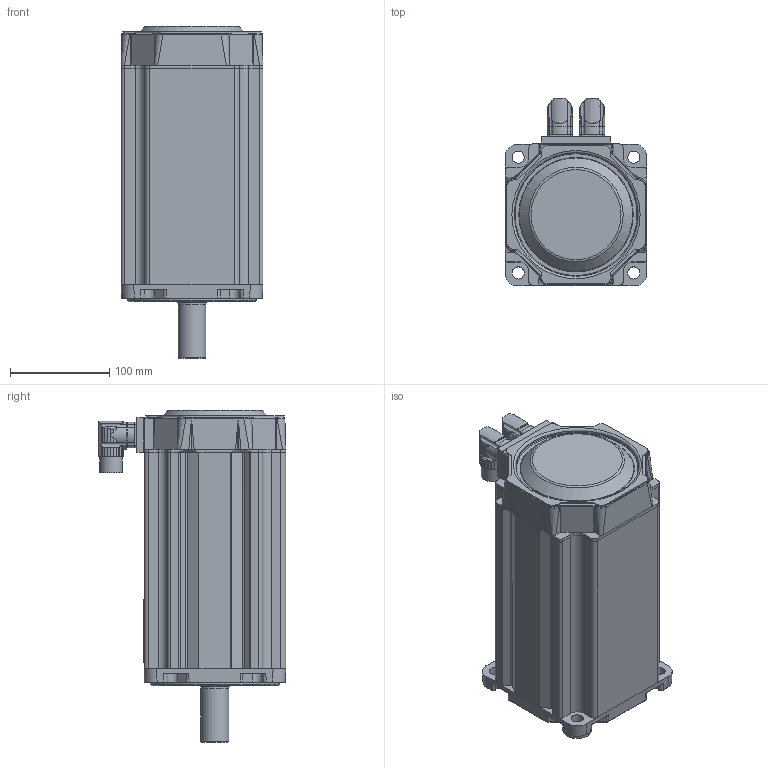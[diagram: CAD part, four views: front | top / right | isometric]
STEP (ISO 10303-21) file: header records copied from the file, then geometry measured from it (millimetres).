
FILE_DESCRIPTION((''),'2;1');
FILE_NAME('C:\CAD_work\Dummy_Modeling_Project_02-12-05\3D MODELS\MPP1426XXX_NPSN.stp','2005-12-20T17:27:09',('jevans'),(''),'Autodesk Inventor 10','Autodesk Inventor 10','');
FILE_SCHEMA(('AUTOMOTIVE_DESIGN { 1 0 10303 214 1 1 1 1 }'));
Length unit declared in the file: inch
Products named in the file (1): MPP142_MOTOR
Bounding box: 142.75 x 188.8 x 334.52 mm (x, y, z)
Volume: 4797384.8 mm3; surface area: 262507.5 mm2
Topology: 3 solids, 3 shells, 905 faces, 2284 edges, 1422 vertices
Faces by surface type: bspline 336, cylinder 287, plane 224, cone 35, torus 21, sphere 2
Full cylindrical faces by diameter (mm): 1.143 x17, 2.032 x6, 2.794 x2, 19.05 x1, 19.685 x1, 22.86 x1, 27.645 x1, 28.001 x1, 29.921 x1, 29.997 x1, 36.83 x1, 55.88 x1, 66.04 x1, 71.526 x1, 72.009 x1, 72.034 x2, 76.352 x1, 80.95 x1, 124.46 x1, 129.997 x1
Entity records: 37237 total; most frequent: CARTESIAN_POINT 17773, ORIENTED_EDGE 4334, DIRECTION 3475, EDGE_CURVE 2167, VERTEX_POINT 1398, AXIS2_PLACEMENT_3D 1344, EDGE_LOOP 1053, FACE_OUTER_BOUND 905
